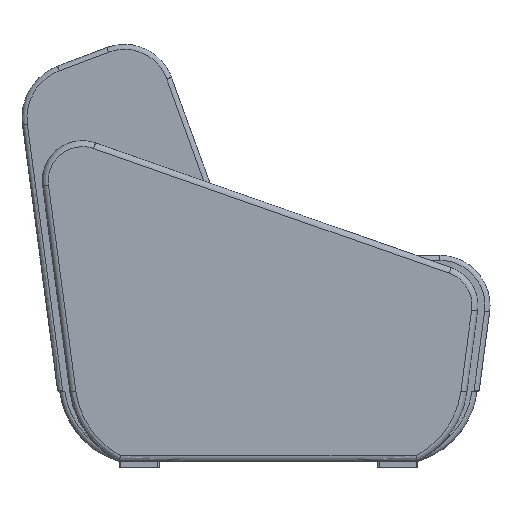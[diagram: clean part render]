
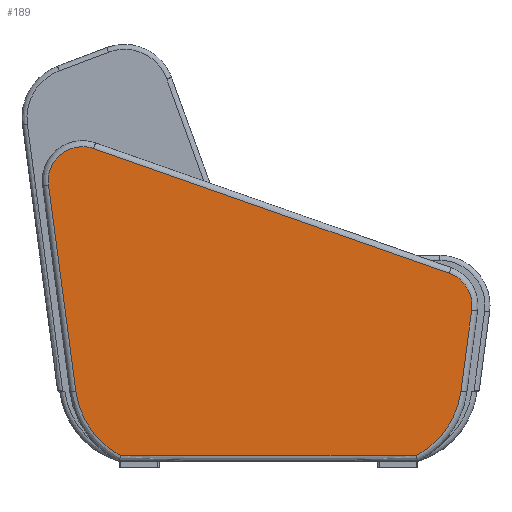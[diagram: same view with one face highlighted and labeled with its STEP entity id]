
A CAD part, left-side view. The second image highlights one B-rep face of the part: STEP entity #189.
In plain terms, the highlighted planar face has unit normal (-1, 0, 0).
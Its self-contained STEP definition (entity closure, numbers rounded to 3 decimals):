
#189=ADVANCED_FACE('',(#342),#2399,.T.);
#342=FACE_OUTER_BOUND('',#495,.T.);
#495=EDGE_LOOP('',(#896,#897,#898,#899,#900,#901,#902,#903));
#896=ORIENTED_EDGE('',*,*,#1496,.F.);
#897=ORIENTED_EDGE('',*,*,#1495,.F.);
#898=ORIENTED_EDGE('',*,*,#1493,.F.);
#899=ORIENTED_EDGE('',*,*,#1494,.F.);
#900=ORIENTED_EDGE('',*,*,#1492,.F.);
#901=ORIENTED_EDGE('',*,*,#1491,.F.);
#902=ORIENTED_EDGE('',*,*,#1498,.T.);
#903=ORIENTED_EDGE('',*,*,#1497,.F.);
#1491=EDGE_CURVE('',#2230,#2231,#1886,.T.);
#1492=EDGE_CURVE('',#2231,#2229,#1887,.T.);
#1493=EDGE_CURVE('',#2228,#2226,#1888,.T.);
#1494=EDGE_CURVE('',#2229,#2228,#2654,.T.);
#1495=EDGE_CURVE('',#2226,#2227,#1889,.T.);
#1496=EDGE_CURVE('',#2227,#2224,#1890,.T.);
#1497=EDGE_CURVE('',#2224,#2225,#1891,.T.);
#1498=EDGE_CURVE('',#2230,#2225,#1892,.T.);
#1886=(
BOUNDED_CURVE()
B_SPLINE_CURVE(3,(#4553,#4554,#4555,#4556),.UNSPECIFIED.,.F.,.F.)
B_SPLINE_CURVE_WITH_KNOTS((4,4),(0.,416.744),
 .UNSPECIFIED.)
CURVE()
GEOMETRIC_REPRESENTATION_ITEM()
RATIONAL_B_SPLINE_CURVE((1.,1.,1.,1.))
REPRESENTATION_ITEM('')
);
#1887=(
BOUNDED_CURVE()
B_SPLINE_CURVE(3,(#4557,#4558,#4559,#4560,#4561,#4562,#4563,#4564,#4565,
#4566,#4567,#4568,#4569),.UNSPECIFIED.,.F.,.F.)
B_SPLINE_CURVE_WITH_KNOTS((4,3,3,3,4),(416.744,451.422,
486.1,520.778,555.456),.UNSPECIFIED.)
CURVE()
GEOMETRIC_REPRESENTATION_ITEM()
RATIONAL_B_SPLINE_CURVE((1.,1.,1.,1.,1.,1.,1.,1.,1.,1.,1.,1.,1.))
REPRESENTATION_ITEM('')
);
#1888=(
BOUNDED_CURVE()
B_SPLINE_CURVE(3,(#4570,#4571,#4572,#4573,#4574,#4575,#4576,#4577,#4578,
#4579,#4580,#4581,#4582,#4583,#4584,#4585),.UNSPECIFIED.,.F.,.F.)
B_SPLINE_CURVE_WITH_KNOTS((4,3,3,3,3,4),(1312.689,1335.202,
1352.693,1359.106,1383.011,1405.523),
 .UNSPECIFIED.)
CURVE()
GEOMETRIC_REPRESENTATION_ITEM()
RATIONAL_B_SPLINE_CURVE((1.,1.,1.,1.,1.,1.,
1.,1.,1.,1.,
1.,1.,1.,1.,1.,1.))
REPRESENTATION_ITEM('')
);
#1889=(
BOUNDED_CURVE()
B_SPLINE_CURVE(1,(#4588,#4589),.UNSPECIFIED.,.F.,.F.)
B_SPLINE_CURVE_WITH_KNOTS((2,2),(0.,163.924),
 .UNSPECIFIED.)
CURVE()
GEOMETRIC_REPRESENTATION_ITEM()
RATIONAL_B_SPLINE_CURVE((1.,1.))
REPRESENTATION_ITEM('')
);
#1890=(
BOUNDED_CURVE()
B_SPLINE_CURVE(3,(#4590,#4591,#4592,#4593,#4594,#4595,#4596,#4597,#4598,
#4599),.UNSPECIFIED.,.F.,.F.)
B_SPLINE_CURVE_WITH_KNOTS((4,3,3,4),(0.,61.354,
122.934,162.662),.UNSPECIFIED.)
CURVE()
GEOMETRIC_REPRESENTATION_ITEM()
RATIONAL_B_SPLINE_CURVE((1.,1.,1.,1.,1.,1.,1.,1.,1.,1.))
REPRESENTATION_ITEM('')
);
#1891=(
BOUNDED_CURVE()
B_SPLINE_CURVE(1,(#4600,#4601),.UNSPECIFIED.,.F.,.F.)
B_SPLINE_CURVE_WITH_KNOTS((2,2),(-597.17,-6.935),
 .UNSPECIFIED.)
CURVE()
GEOMETRIC_REPRESENTATION_ITEM()
RATIONAL_B_SPLINE_CURVE((1.,1.))
REPRESENTATION_ITEM('')
);
#1892=(
BOUNDED_CURVE()
B_SPLINE_CURVE(3,(#4602,#4603,#4604,#4605,#4606,#4607,#4608,#4609,#4610,
#4611),.UNSPECIFIED.,.F.,.F.)
B_SPLINE_CURVE_WITH_KNOTS((4,3,3,4),(0.,61.354,
122.934,162.662),.UNSPECIFIED.)
CURVE()
GEOMETRIC_REPRESENTATION_ITEM()
RATIONAL_B_SPLINE_CURVE((1.,1.,1.,1.,1.,1.,1.,1.,1.,1.))
REPRESENTATION_ITEM('')
);
#2224=VERTEX_POINT('',#4545);
#2225=VERTEX_POINT('',#4546);
#2226=VERTEX_POINT('',#4547);
#2227=VERTEX_POINT('',#4548);
#2228=VERTEX_POINT('',#4549);
#2229=VERTEX_POINT('',#4550);
#2230=VERTEX_POINT('',#4551);
#2231=VERTEX_POINT('',#4552);
#2399=PLANE('',#2717);
#2654=B_SPLINE_CURVE_WITH_KNOTS('',1,(#4586,#4587),.UNSPECIFIED.,.F.,.F.,
(2,2),(0.,757.233),.UNSPECIFIED.);
#2717=AXIS2_PLACEMENT_3D('',#4544,#2748,$);
#2748=DIRECTION('',(-1.,0.,0.));
#4544=CARTESIAN_POINT('',(-100.,-415.543,17.819));
#4545=CARTESIAN_POINT('',(-100.,-295.118,24.));
#4546=CARTESIAN_POINT('',(-100.,295.118,24.));
#4547=CARTESIAN_POINT('',(-100.,-406.078,315.046));
#4548=CARTESIAN_POINT('',(-100.,-384.54,152.544));
#4549=CARTESIAN_POINT('',(-100.,-361.174,388.148));
#4550=CARTESIAN_POINT('',(-100.,349.184,637.305));
#4551=CARTESIAN_POINT('',(-100.,384.54,152.544));
#4552=CARTESIAN_POINT('',(-100.,439.102,564.203));
#4553=CARTESIAN_POINT('',(-100.,384.54,152.544));
#4554=CARTESIAN_POINT('',(-100.,402.727,289.763));
#4555=CARTESIAN_POINT('',(-100.,420.914,426.983));
#4556=CARTESIAN_POINT('',(-100.,439.102,564.203));
#4557=CARTESIAN_POINT('',(-100.,439.102,564.203));
#4558=CARTESIAN_POINT('',(-100.,440.635,575.66));
#4559=CARTESIAN_POINT('',(-100.,439.16,587.509));
#4560=CARTESIAN_POINT('',(-100.,434.891,598.249));
#4561=CARTESIAN_POINT('',(-100.,430.622,608.988));
#4562=CARTESIAN_POINT('',(-100.,423.558,618.617));
#4563=CARTESIAN_POINT('',(-100.,414.592,625.907));
#4564=CARTESIAN_POINT('',(-100.,405.626,633.196));
#4565=CARTESIAN_POINT('',(-100.,394.757,638.146));
#4566=CARTESIAN_POINT('',(-100.,383.373,640.133));
#4567=CARTESIAN_POINT('',(-100.,371.988,642.12));
#4568=CARTESIAN_POINT('',(-100.,360.087,641.145));
#4569=CARTESIAN_POINT('',(-100.,349.184,637.305));
#4570=CARTESIAN_POINT('',(-100.,-361.174,388.148));
#4571=CARTESIAN_POINT('',(-100.,-368.256,385.667));
#4572=CARTESIAN_POINT('',(-100.,-374.922,382.));
#4573=CARTESIAN_POINT('',(-100.,-380.811,377.349));
#4574=CARTESIAN_POINT('',(-100.,-385.386,373.735));
#4575=CARTESIAN_POINT('',(-100.,-389.493,369.528));
#4576=CARTESIAN_POINT('',(-100.,-393.001,364.871));
#4577=CARTESIAN_POINT('',(-100.,-394.287,363.163));
#4578=CARTESIAN_POINT('',(-100.,-395.492,361.395));
#4579=CARTESIAN_POINT('',(-100.,-396.611,359.574));
#4580=CARTESIAN_POINT('',(-100.,-400.781,352.784));
#4581=CARTESIAN_POINT('',(-100.,-403.745,345.254));
#4582=CARTESIAN_POINT('',(-100.,-405.323,337.444));
#4583=CARTESIAN_POINT('',(-100.,-406.809,330.089));
#4584=CARTESIAN_POINT('',(-100.,-407.066,322.485));
#4585=CARTESIAN_POINT('',(-100.,-406.078,315.046));
#4586=CARTESIAN_POINT('',(-100.,349.184,637.305));
#4587=CARTESIAN_POINT('',(-100.,-361.174,388.148));
#4588=CARTESIAN_POINT('',(-100.,-406.078,315.046));
#4589=CARTESIAN_POINT('',(-100.,-384.54,152.544));
#4590=CARTESIAN_POINT('',(-100.,-384.54,152.544));
#4591=CARTESIAN_POINT('',(-100.,-381.862,132.268));
#4592=CARTESIAN_POINT('',(-100.,-375.492,112.485));
#4593=CARTESIAN_POINT('',(-100.,-365.851,94.45));
#4594=CARTESIAN_POINT('',(-100.,-356.174,76.349));
#4595=CARTESIAN_POINT('',(-100.,-343.203,60.008));
#4596=CARTESIAN_POINT('',(-100.,-327.765,46.482));
#4597=CARTESIAN_POINT('',(-100.,-317.806,37.755));
#4598=CARTESIAN_POINT('',(-100.,-306.82,30.2));
#4599=CARTESIAN_POINT('',(-100.,-295.118,24.));
#4600=CARTESIAN_POINT('',(-100.,-295.118,24.));
#4601=CARTESIAN_POINT('',(-100.,295.118,24.));
#4602=CARTESIAN_POINT('',(-100.,384.54,152.544));
#4603=CARTESIAN_POINT('',(-100.,381.862,132.268));
#4604=CARTESIAN_POINT('',(-100.,375.492,112.485));
#4605=CARTESIAN_POINT('',(-100.,365.851,94.45));
#4606=CARTESIAN_POINT('',(-100.,356.174,76.349));
#4607=CARTESIAN_POINT('',(-100.,343.203,60.008));
#4608=CARTESIAN_POINT('',(-100.,327.765,46.482));
#4609=CARTESIAN_POINT('',(-100.,317.806,37.755));
#4610=CARTESIAN_POINT('',(-100.,306.82,30.2));
#4611=CARTESIAN_POINT('',(-100.,295.118,24.));
